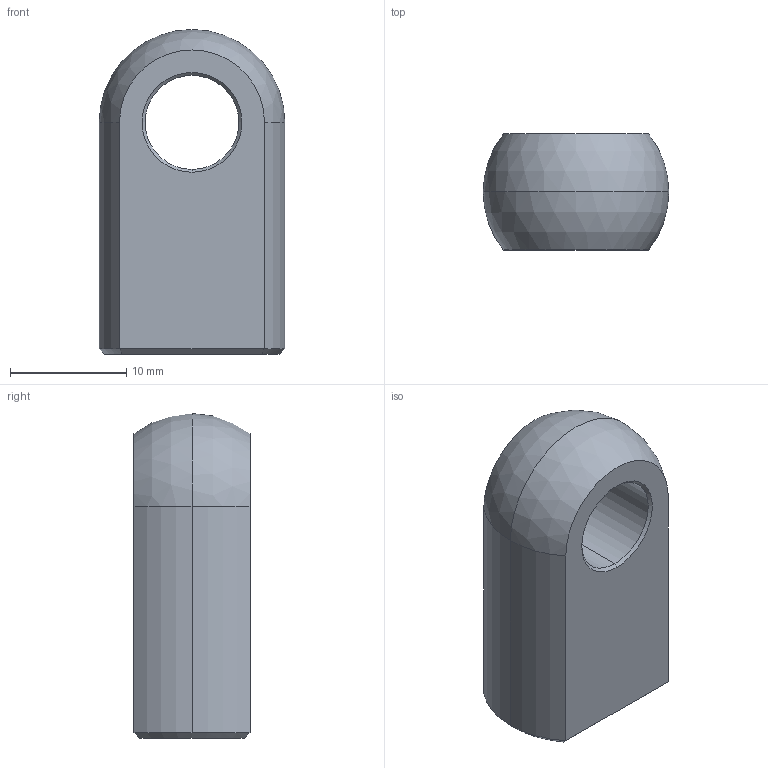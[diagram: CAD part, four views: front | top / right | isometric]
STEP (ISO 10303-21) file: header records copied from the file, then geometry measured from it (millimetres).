
FILE_DESCRIPTION (( 'STEP AP214' ), '1' );
FILE_NAME ('18.08A1L20.STEP', '2017-11-09T11:55:35', ( '' ), ( '' ), 'SwSTEP 2.0', 'SolidWorks 2016', '' );
FILE_SCHEMA (( 'AUTOMOTIVE_DESIGN' ));
Length unit declared in the file: millimetre
Products named in the file (1): 18.08A1L20
Bounding box: 16 x 10 x 28 mm (x, y, z)
Volume: 2937.2 mm3; surface area: 1797.2 mm2
Topology: 1 solids, 1 shells, 25 faces, 57 edges, 33 vertices
Faces by surface type: cone 11, cylinder 7, plane 5, sphere 2
Entity records: 732 total; most frequent: DIRECTION 132, CARTESIAN_POINT 126, ORIENTED_EDGE 110, AXIS2_PLACEMENT_3D 55, EDGE_CURVE 55, VERTEX_POINT 33, CIRCLE 29, EDGE_LOOP 28
